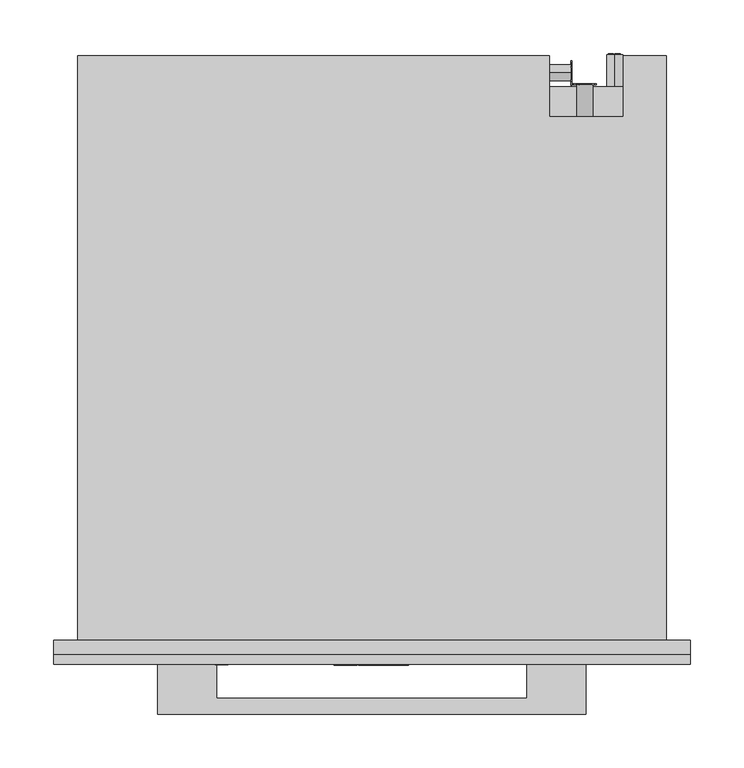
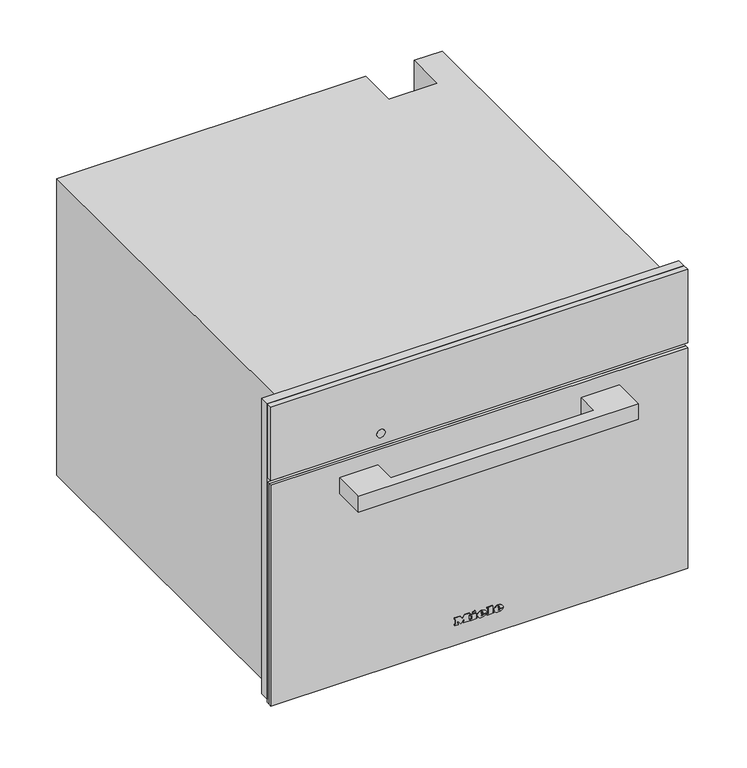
"""IFC4 building model written with IfcOpenShell, lengths in millimetres: proxy geometry, 12100420_D_DGC7645HCPro_OBSW : 23764528_D_12100420_DGC7645HCPro_OBSW."""

from ifc_helpers import new_model, si_unit, point, frame, frame_2d, origin, place, context, project, spatial, polyline, circle_curve, ellipse_curve, trimmed, segment, composite_curve, outline, extrude, faceted_brep, source, transform, mapped, element, save
from ifc_brep_helpers import plane_surface, cylinder_surface, revolved_surface, extruded_surface, advanced_brep


def specialty_equipment_17d98265(model_context):
    return source(origin(), model_context, "Body", "SolidModel", [
        extrude(outline(polyline([(455.0, 297.5), (455.0, -297.5), (9.0, -297.5), (9.0, 297.5), (455.0, 297.5)]), holes=[polyline([(344.0, -272.5), (344.0, 272.5), (27.0, 272.5), (27.0, -272.5), (344.0, -272.5)])]), frame((0.0, -13.0, 0.0), z_axis=(0.0, 1.0, 0.0), x_axis=(0.0, 0.0, 1.0)), (0.0, 0.0, 1.0), 13.0),
        extrude(outline(polyline([(383.0, 196.9217896), (383.0, 198.4267862), (393.0435673, 201.1942402), (393.0435673, 199.9014806), (384.4295103, 197.7797951), (393.0470645, 195.3087512), (393.0470645, 193.4373937), (384.4121052, 190.9191482), (393.0472266, 188.8443938), (393.0472266, 187.5376524), (383.0, 190.2769667), (383.0, 191.6257455), (391.8347238, 194.3884733), (383.0, 196.9217896)])), frame((0.0, 519.0, 0.0), z_axis=(0.0, 1.0, 0.0), x_axis=(0.0, 0.0, 1.0)), (0.0, 0.0, 1.0), 1.0),
        extrude(outline(polyline([(393.0468463, 209.521488), (393.0468463, 208.2566067), (388.129594, 208.2566067), (393.0474898, 203.1074328), (393.0474898, 201.3597489), (388.9313111, 205.6695027), (383.0, 201.1858157), (383.0, 202.7358731), (388.0700777, 206.5685235), (386.4282746, 208.2823622), (383.0, 208.2823622), (383.0, 209.521488), (393.0468463, 209.521488)])), frame((0.0, 519.0, 0.0), z_axis=(0.0, 1.0, 0.0), x_axis=(0.0, 0.0, 1.0)), (0.0, 0.0, 1.0), 1.0),
        extrude(outline(polyline([(518.3136153, 20.0), (522.323529, 30.045631), (523.3928394, 30.045631), (527.4027531, 20.0), (526.0759254, 20.0), (524.925681, 23.1392597), (520.7882348, 23.1392597), (519.640443, 20.0), (518.3136153, 20.0)]), holes=[polyline([(521.2493136, 24.3949636), (524.4670548, 24.3949636), (523.5620651, 26.864678), (522.8581842, 28.7899271), (522.2327848, 27.0805021), (521.2493136, 24.3949636)])]), frame((186.0, 0.0, 0.0), z_axis=(1.0, 0.0, 0.0), x_axis=(0.0, 1.0, 0.0)), (0.0, 0.0, 1.0), 1.0),
        extrude(outline(polyline([(530.5420128, 20.0), (527.8025182, 30.045631), (529.0974628, 30.045631), (530.6867131, 23.4433755), (531.1772224, 21.4053092), (531.7020674, 23.207931), (533.6935352, 30.045631), (535.5599232, 30.045631), (537.0069257, 25.0890343), (538.0835937, 21.4053092), (538.5593878, 23.3845144), (540.1633533, 30.045631), (541.4582979, 30.045631), (538.7163507, 20.0), (537.3748077, 20.0), (534.9664069, 27.7500474), (534.630408, 28.8316204), (534.2527159, 27.5293182), (532.0576866, 20.0), (530.5420128, 20.0)])), frame((186.0, 0.0, 0.0), z_axis=(1.0, 0.0, 0.0), x_axis=(0.0, 1.0, 0.0)), (0.0, 0.0, 1.0), 1.0),
        advanced_brep(
        [(227.0, 547.0, 255.5), (227.0, 547.0, 240.5), (221.4098301, 547.0, 243.0), (225.5, 547.0, 243.0), (225.5, 547.0, 253.0), (224.4955303, 547.0, 253.0), (224.4955303, 547.0, 244.0), (221.0315043, 547.0, 244.0), (221.0315043, 547.0, 243.4582978), (232.0, 547.0, 243.0), (232.0, 547.0, 253.0), (227.0, 547.0, 253.0), (227.0, 547.0, 252.0), (231.0, 547.0, 252.0), (231.0, 547.0, 248.5), (228.0, 547.0, 248.5), (228.0, 547.0, 247.5), (231.0, 547.0, 247.5), (231.0, 547.0, 244.0), (227.0, 547.0, 244.0), (227.0, 547.0, 243.0), (227.0, 517.0, 240.5), (227.0, 517.0, 255.5), (232.0, 548.0, 253.0), (232.0, 548.0, 243.0), (227.0, 548.0, 243.0), (227.0, 548.0, 244.0), (231.0, 548.0, 244.0), (231.0, 548.0, 247.5), (228.0, 548.0, 247.5), (228.0, 548.0, 248.5), (231.0, 548.0, 248.5), (231.0, 548.0, 252.0), (227.0, 548.0, 252.0), (227.0, 548.0, 253.0), (225.5, 548.0, 243.0), (221.0315043, 548.0, 243.0), (221.0315043, 548.0, 244.0), (224.4955303, 548.0, 244.0), (224.4955303, 548.0, 253.0), (225.5, 548.0, 253.0), (221.0315043, 547.0, 243.0)],
        [
            (0, 1, circle_curve(frame((227.0, 547.0, 248.0), z_axis=(0.0, 1.0, 0.0), x_axis=(0.0, 0.0, 1.0)), 7.5)),
            (1, 2, circle_curve(frame((227.0, 547.0, 248.0), z_axis=(0.0, 1.0, 0.0), x_axis=(0.0, 0.0, 1.0)), 7.5)),
            (2, 3),
            (3, 4),
            (4, 5),
            (5, 6),
            (6, 7),
            (7, 8),
            (8, 0, circle_curve(frame((227.0, 547.0, 248.0), z_axis=(0.0, 1.0, 0.0), x_axis=(0.0, 0.0, 1.0)), 7.5)),
            (9, 10),
            (10, 11),
            (11, 12),
            (12, 13),
            (13, 14),
            (14, 15),
            (15, 16),
            (16, 17),
            (17, 18),
            (18, 19),
            (19, 20),
            (20, 9),
            (21, 22, circle_curve(frame((227.0, 517.0, 248.0), z_axis=(0.0, -1.0, 0.0), x_axis=(0.0, 0.0, 1.0)), 7.5)),
            (22, 21, circle_curve(frame((227.0, 517.0, 248.0), z_axis=(0.0, -1.0, 0.0), x_axis=(0.0, 0.0, 1.0)), 7.5)),
            (0, 22),
            (21, 1),
            (8, 2, circle_curve(frame((227.0, 547.0, 248.0), z_axis=(0.0, -1.0, 0.0), x_axis=(0.0, 0.0, 1.0)), 7.5)),
            (23, 24),
            (24, 25),
            (25, 26),
            (26, 27),
            (27, 28),
            (28, 29),
            (29, 30),
            (30, 31),
            (31, 32),
            (32, 33),
            (33, 34),
            (34, 23),
            (35, 36),
            (36, 37),
            (37, 38),
            (38, 39),
            (39, 40),
            (40, 35),
            (8, 41),
            (41, 2),
            (23, 10),
            (9, 24),
            (20, 25),
            (19, 26),
            (18, 27),
            (17, 28),
            (16, 29),
            (15, 30),
            (14, 31),
            (13, 32),
            (12, 33),
            (11, 34),
            (35, 3),
            (41, 36),
            (7, 37),
            (6, 38),
            (5, 39),
            (4, 40),
        ],
        [
            plane_surface(frame((227.0, 547.0, 255.5), z_axis=(0.0, 1.0, 0.0), x_axis=(1.0, 0.0, 0.0))),
            plane_surface(frame((227.0, 517.0, 255.5), z_axis=(0.0, -1.0, 0.0), x_axis=(-1.0, 0.0, 0.0))),
            cylinder_surface(frame((227.0, 547.0, 248.0), z_axis=(0.0, -1.0, 0.0), x_axis=(0.0, 0.0, 1.0)), 7.5),
            plane_surface(frame((232.0, 548.0, 253.0), z_axis=(0.0, 1.0, 0.0), x_axis=(0.0, 0.0, -1.0))),
            plane_surface(frame((232.0, 547.0, 253.0), z_axis=(0.0, -1.0, 0.0), x_axis=(0.0, 0.0, 1.0))),
            plane_surface(frame((232.0, 548.0, 253.0), z_axis=(1.0, 0.0, 0.0), x_axis=(0.0, -1.0, 0.0))),
            plane_surface(frame((232.0, 548.0, 243.0), z_axis=(0.0, 0.0, -1.0), x_axis=(0.0, -1.0, 0.0))),
            plane_surface(frame((227.0, 548.0, 243.0), z_axis=(-1.0, 0.0, 0.0), x_axis=(0.0, -1.0, 0.0))),
            plane_surface(frame((227.0, 548.0, 244.0), z_axis=(0.0, 0.0, 1.0), x_axis=(0.0, -1.0, 0.0))),
            plane_surface(frame((231.0, 548.0, 244.0), z_axis=(-1.0, 0.0, 0.0), x_axis=(0.0, -1.0, 0.0))),
            plane_surface(frame((231.0, 548.0, 247.5), z_axis=(0.0, 0.0, -1.0), x_axis=(0.0, -1.0, 0.0))),
            plane_surface(frame((228.0, 548.0, 247.5), z_axis=(-1.0, 0.0, 0.0), x_axis=(0.0, -1.0, 0.0))),
            plane_surface(frame((228.0, 548.0, 248.5), z_axis=(0.0, 0.0, 1.0), x_axis=(0.0, -1.0, 0.0))),
            plane_surface(frame((231.0, 548.0, 248.5), z_axis=(-1.0, 0.0, 0.0), x_axis=(0.0, -1.0, 0.0))),
            plane_surface(frame((231.0, 548.0, 252.0), z_axis=(0.0, 0.0, -1.0), x_axis=(0.0, -1.0, 0.0))),
            plane_surface(frame((227.0, 548.0, 252.0), z_axis=(-1.0, 0.0, 0.0), x_axis=(0.0, -1.0, 0.0))),
            plane_surface(frame((227.0, 548.0, 253.0), z_axis=(0.0, 0.0, 1.0), x_axis=(0.0, -1.0, 0.0))),
            plane_surface(frame((225.5, 548.0, 243.0), z_axis=(0.0, 0.0, -1.0), x_axis=(0.0, -1.0, 0.0))),
            plane_surface(frame((221.0315043, 548.0, 243.0), z_axis=(-1.0, 0.0, 0.0), x_axis=(0.0, -1.0, 0.0))),
            plane_surface(frame((221.0315043, 548.0, 244.0), z_axis=(0.0, 0.0, 1.0), x_axis=(0.0, -1.0, 0.0))),
            plane_surface(frame((224.4955303, 548.0, 244.0), z_axis=(-1.0, 0.0, 0.0), x_axis=(0.0, -1.0, 0.0))),
            plane_surface(frame((224.4955303, 548.0, 253.0), z_axis=(0.0, 0.0, 1.0), x_axis=(0.0, -1.0, 0.0))),
            plane_surface(frame((225.5, 548.0, 253.0), z_axis=(1.0, 0.0, 0.0), x_axis=(0.0, -1.0, 0.0))),
        ],
        [
            (0, [[1, 2, 3, 4, 5, 6, 7, 8, 9], [10, 11, 12, 13, 14, 15, 16, 17, 18, 19, 20, 21]]),
            (1, [[22, 23]]),
            (2, [[-1, 24, -22, 25]]),
            (2, [[-23, -24, -9, 26, -2, -25]]),
            (3, [[27, 28, 29, 30, 31, 32, 33, 34, 35, 36, 37, 38]]),
            (3, [[39, 40, 41, 42, 43, 44]]),
            (4, [[45, 46, -26]]),
            (5, [[-27, 47, -10, 48]]),
            (6, [[-28, -48, -21, 49]]),
            (7, [[-29, -49, -20, 50]]),
            (8, [[-30, -50, -19, 51]]),
            (9, [[-31, -51, -18, 52]]),
            (10, [[-32, -52, -17, 53]]),
            (11, [[-33, -53, -16, 54]]),
            (12, [[-34, -54, -15, 55]]),
            (13, [[-35, -55, -14, 56]]),
            (14, [[-36, -56, -13, 57]]),
            (15, [[-37, -57, -12, 58]]),
            (16, [[-38, -58, -11, -47]]),
            (17, [[-39, 59, -3, -46, 60]]),
            (18, [[-40, -60, -45, -8, 61]]),
            (19, [[-41, -61, -7, 62]]),
            (20, [[-42, -62, -6, 63]]),
            (21, [[-43, -63, -5, 64]]),
            (22, [[-44, -64, -4, -59]]),
        ],
    ),
        extrude(outline(composite_curve([segment(trimmed(circle_curve(frame_2d((388.0, 199.0)), 7.5), [point((388.0, 206.5))], [point((388.0, 191.5))], False, "CARTESIAN"), True, "CONTINUOUS"), segment(trimmed(circle_curve(frame_2d((388.0, 199.0)), 7.5), [point((388.0, 191.5))], [point((388.0, 206.5))], False, "CARTESIAN"), True, "CONTINUOUS")], self_intersect=False)), frame((0.0, 489.0, 0.0), z_axis=(0.0, 1.0, 0.0), x_axis=(0.0, 0.0, 1.0)), (0.0, 0.0, 1.0), 30.0),
        extrude(outline(composite_curve([segment(trimmed(circle_curve(frame_2d((530.0, 25.0)), 7.5), [point((530.0, 17.5))], [point((530.0, 32.5))], False, "CARTESIAN"), True, "CONTINUOUS"), segment(trimmed(circle_curve(frame_2d((530.0, 25.0)), 7.5), [point((530.0, 32.5))], [point((530.0, 17.5))], False, "CARTESIAN"), True, "CONTINUOUS")], self_intersect=False)), frame((166.0, 0.0, 0.0), z_axis=(1.0, 0.0, 0.0), x_axis=(0.0, 1.0, 0.0)), (0.0, 0.0, 1.0), 20.0),
        faceted_brep([(-275.0, 546.0, 0.0), (-275.0, 546.0, 448.0), (166.0, 546.0, 448.0), (166.0, 546.0, 0.0), (235.0, 546.0, 448.0), (275.0, 546.0, 448.0), (275.0, 546.0, 338.0), (235.0, 546.0, 338.0), (275.0, 0.0, 448.0), (-275.0, 0.0, 448.0), (-275.0, 0.0, 0.0), (275.0, 0.0, 0.0), (-272.5, 0.0, 344.0), (272.5, 0.0, 344.0), (272.5, 0.0, 27.0), (-272.5, 0.0, 27.0), (235.0, 489.0, 448.0), (166.0, 489.0, 448.0), (166.0, 517.0, 0.0), (275.0, 517.0, 0.0), (275.0, 517.0, 338.0), (272.5, 17.0, 344.0), (-272.5, 17.0, 344.0), (-272.5, 17.0, 27.0), (272.5, 17.0, 27.0), (231.0, 17.0, 307.0), (231.0, 17.0, 65.0), (-231.0, 17.0, 65.0), (-231.0, 17.0, 307.0), (231.0, 411.0, 307.0), (-231.0, 411.0, 307.0), (-231.0, 411.0, 65.0), (231.0, 411.0, 65.0), (235.0, 489.0, 337.0), (166.0, 489.0, 337.0), (166.0, 517.0, 337.0), (235.0, 517.0, 337.0), (235.0, 517.0, 338.0)], [[[0, 1, 2, 3]], [[4, 5, 6, 7]], [[8, 9, 10, 11], [12, 13, 14, 15]], [[9, 8, 5, 4, 16, 17, 2, 1]], [[1, 0, 10, 9]], [[11, 10, 0, 3, 18, 19]], [[8, 11, 19, 20, 6, 5]], [[21, 22, 23, 24], [25, 26, 27, 28]], [[22, 21, 13, 12]], [[23, 22, 12, 15]], [[24, 23, 15, 14]], [[21, 24, 14, 13]], [[29, 30, 31, 32]], [[29, 32, 26, 25]], [[32, 31, 27, 26]], [[31, 30, 28, 27]], [[30, 29, 25, 28]], [[16, 33, 34, 17]], [[17, 34, 35, 18, 3, 2]], [[34, 33, 36, 35]], [[33, 16, 4, 7, 37, 36]], [[37, 20, 19, 18, 35, 36]], [[20, 37, 7, 6]]]),
        advanced_brep(
        [(26.2998, -23.0, 36.7018), (26.2998, -23.0, 37.8532), (33.9264, -23.0, 37.8532), (20.6568, -23.0, 37.8532), (23.7918, -23.0, 34.0), (33.7326, -23.0, 36.7018), (30.2898, -23.0, 36.7018), (27.5766, -23.0, 35.425), (26.2998, -23.0, 39.3124), (26.2998, -23.0, 40.555), (28.2492, -23.0, 40.555), (28.2492, -23.0, 39.3124), (26.2998, -22.0, 36.7018), (27.5766, -22.0, 35.425), (30.2898, -22.0, 36.7018), (33.7326, -22.0, 36.7018), (23.7918, -22.0, 34.0), (20.6568, -22.0, 37.8532), (33.9264, -22.0, 37.8532), (26.2998, -22.0, 37.8532), (26.2998, -22.0, 39.3124), (28.2492, -22.0, 39.3124), (28.2492, -22.0, 40.555), (26.2998, -22.0, 40.555)],
        [
            (0, 1),
            (1, 2),
            (2, 3, ellipse_curve(frame((27.2916, -23.0, 37.8532), z_axis=(0.0, -1.0, 0.0), x_axis=(-1.0, 0.0, 0.0)), 6.6348, 5.4834)),
            (3, 4, circle_curve(frame((25.0686622, -23.0, 38.2408), z_axis=(0.0, -1.0, 0.0), x_axis=(0.0, 0.0, -1.0)), 4.4288556)),
            (4, 5, circle_curve(frame((27.1587808, -23.0, 41.2504), z_axis=(0.0, -1.0, 0.0), x_axis=(0.0, 0.0, -1.0)), 7.9940516)),
            (5, 6),
            (6, 7, circle_curve(frame((28.1338588, -23.0, 37.762), z_axis=(0.0, 1.0, 0.0), x_axis=(0.0, 0.0, -1.0)), 2.4025208)),
            (7, 0, circle_curve(frame((27.5766, -23.0, 36.7018), z_axis=(0.0, 1.0, 0.0), x_axis=(0.0, 0.0, -1.0)), 1.2768)),
            (8, 9),
            (9, 10, circle_curve(frame((27.2745, -23.0, 40.555), z_axis=(0.0, 1.0, 0.0), x_axis=(0.0, 0.0, -1.0)), 0.9747)),
            (10, 11),
            (11, 8),
            (12, 13, circle_curve(frame((27.5766, -22.0, 36.7018), z_axis=(0.0, -1.0, 0.0), x_axis=(0.0, 0.0, -1.0)), 1.2768)),
            (13, 14, circle_curve(frame((28.1338588, -22.0, 37.762), z_axis=(0.0, -1.0, 0.0), x_axis=(0.0, 0.0, -1.0)), 2.4025208)),
            (14, 15),
            (15, 16, circle_curve(frame((27.1587808, -22.0, 41.2504), z_axis=(0.0, 1.0, 0.0), x_axis=(0.0, 0.0, -1.0)), 7.9940516)),
            (16, 17, circle_curve(frame((25.0686622, -22.0, 38.2408), z_axis=(0.0, 1.0, 0.0), x_axis=(0.0, 0.0, -1.0)), 4.4288556)),
            (17, 18, ellipse_curve(frame((27.2916, -22.0, 37.8532), z_axis=(0.0, 1.0, 0.0), x_axis=(-1.0, 0.0, 0.0)), 6.6348, 5.4834)),
            (18, 19),
            (19, 12),
            (20, 21),
            (21, 22),
            (22, 23, circle_curve(frame((27.2745, -22.0, 40.555), z_axis=(0.0, -1.0, 0.0), x_axis=(0.0, 0.0, -1.0)), 0.9747)),
            (23, 20),
            (0, 12),
            (19, 1),
            (18, 2),
            (5, 15),
            (14, 6),
            (17, 3),
            (13, 7),
            (16, 4),
            (8, 20),
            (23, 9),
            (22, 10),
            (21, 11),
        ],
        [
            plane_surface(frame((26.2998, -23.0, 37.8532), z_axis=(0.0, -1.0, 0.0), x_axis=(0.0, 0.0, 1.0))),
            plane_surface(frame((26.2998, -22.0, 37.8532), z_axis=(0.0, 1.0, 0.0), x_axis=(0.0, 0.0, -1.0))),
            plane_surface(frame((26.2998, -23.0, 36.7018), z_axis=(1.0, 0.0, 0.0), x_axis=(0.0, 1.0, 0.0))),
            plane_surface(frame((26.2998, -23.0, 37.8532), z_axis=(0.0, 0.0, -1.0), x_axis=(0.0, 1.0, 0.0))),
            plane_surface(frame((33.7326, -23.0, 36.7018), z_axis=(0.0, 0.0, 1.0), x_axis=(0.0, 1.0, 0.0))),
            extruded_surface(trimmed(ellipse_curve(frame((27.2916, -21.0, 37.8532), z_axis=(0.0, -1.0, 0.0), x_axis=(-1.0, 0.0, 0.0)), 6.6348, 5.4834), [point((33.9264, -21.0, 37.8532))], [point((20.6568, -21.0, 37.8532))], True, "CARTESIAN"), (0.0, -1.0, 0.0), 1.0),
            revolved_surface(polyline([(28.1338588, -22.0, 35.3594792), (28.1338588, -23.0, 35.3594792)]), (28.1338588, -22.0, 37.762), (0.0, 1.0, 0.0)),
            revolved_surface(polyline([(27.5766, -22.0, 35.425), (27.5766, -23.0, 35.425)]), (27.5766, -22.0, 36.7018), (0.0, 1.0, 0.0)),
            cylinder_surface(frame((25.0686622, -22.0, 38.2408), z_axis=(0.0, -1.0, 0.0), x_axis=(0.0, 0.0, -1.0)), 4.4288556),
            cylinder_surface(frame((27.1587808, -22.0, 41.2504), z_axis=(0.0, -1.0, 0.0), x_axis=(0.0, 0.0, -1.0)), 7.9940516),
            plane_surface(frame((26.2998, -23.0, 39.3124), z_axis=(1.0, 0.0, 0.0), x_axis=(0.0, 1.0, 0.0))),
            revolved_surface(polyline([(27.2745, -22.0, 39.5803), (27.2745, -23.0, 39.5803)]), (27.2745, -22.0, 40.555), (0.0, 1.0, 0.0)),
            plane_surface(frame((28.2492, -23.0, 40.555), z_axis=(-1.0, 0.0, 0.0), x_axis=(0.0, 1.0, 0.0))),
            plane_surface(frame((28.2492, -23.0, 39.3124), z_axis=(0.0, 0.0, 1.0), x_axis=(0.0, 1.0, 0.0))),
        ],
        [
            (0, [[1, 2, 3, 4, 5, 6, 7, 8], [9, 10, 11, 12]]),
            (1, [[13, 14, 15, 16, 17, 18, 19, 20], [21, 22, 23, 24]]),
            (2, [[-1, 25, -20, 26]]),
            (3, [[-2, -26, -19, 27]]),
            (4, [[-6, 28, -15, 29]]),
            (5, [[-3, -27, -18, 30]]),
            (6, [[-7, -29, -14, 31]]),
            (7, [[-8, -31, -13, -25]]),
            (8, [[-4, -30, -17, 32]]),
            (9, [[-5, -32, -16, -28]]),
            (10, [[-9, 33, -24, 34]]),
            (11, [[-10, -34, -23, 35]]),
            (12, [[-11, -35, -22, 36]]),
            (13, [[-12, -36, -21, -33]]),
        ],
    ),
        advanced_brep(
        [(2.508, -23.0, 36.7018), (2.508, -23.0, 37.8532), (10.1346, -23.0, 37.8532), (-3.135, -23.0, 37.8532), (0.0, -23.0, 34.0), (9.9408, -23.0, 36.7018), (6.498, -23.0, 36.7018), (3.7848, -23.0, 35.425), (2.508, -23.0, 39.3124), (2.508, -23.0, 40.555), (4.4574, -23.0, 40.555), (4.4574, -23.0, 39.3124), (2.508, -22.0, 36.7018), (3.7848, -22.0, 35.425), (6.498, -22.0, 36.7018), (9.9408, -22.0, 36.7018), (0.0, -22.0, 34.0), (-3.135, -22.0, 37.8532), (10.1346, -22.0, 37.8532), (2.508, -22.0, 37.8532), (2.508, -22.0, 39.3124), (4.4574, -22.0, 39.3124), (4.4574, -22.0, 40.555), (2.508, -22.0, 40.555)],
        [
            (0, 1),
            (1, 2),
            (2, 3, ellipse_curve(frame((3.4998, -23.0, 37.8532), z_axis=(0.0, -1.0, 0.0), x_axis=(-1.0, 0.0, 0.0)), 6.6348, 5.4834)),
            (3, 4, circle_curve(frame((1.2768622, -23.0, 38.2408), z_axis=(0.0, -1.0, 0.0), x_axis=(0.0, 0.0, -1.0)), 4.4288556)),
            (4, 5, circle_curve(frame((3.3669808, -23.0, 41.2504), z_axis=(0.0, -1.0, 0.0), x_axis=(0.0, 0.0, -1.0)), 7.9940516)),
            (5, 6),
            (6, 7, circle_curve(frame((4.3420588, -23.0, 37.762), z_axis=(0.0, 1.0, 0.0), x_axis=(0.0, 0.0, -1.0)), 2.4025208)),
            (7, 0, circle_curve(frame((3.7848, -23.0, 36.7018), z_axis=(0.0, 1.0, 0.0), x_axis=(0.0, 0.0, -1.0)), 1.2768)),
            (8, 9),
            (9, 10, circle_curve(frame((3.4827, -23.0, 40.555), z_axis=(0.0, 1.0, 0.0), x_axis=(0.0, 0.0, -1.0)), 0.9747)),
            (10, 11),
            (11, 8),
            (12, 13, circle_curve(frame((3.7848, -22.0, 36.7018), z_axis=(0.0, -1.0, 0.0), x_axis=(0.0, 0.0, -1.0)), 1.2768)),
            (13, 14, circle_curve(frame((4.3420588, -22.0, 37.762), z_axis=(0.0, -1.0, 0.0), x_axis=(0.0, 0.0, -1.0)), 2.4025208)),
            (14, 15),
            (15, 16, circle_curve(frame((3.3669808, -22.0, 41.2504), z_axis=(0.0, 1.0, 0.0), x_axis=(0.0, 0.0, -1.0)), 7.9940516)),
            (16, 17, circle_curve(frame((1.2768622, -22.0, 38.2408), z_axis=(0.0, 1.0, 0.0), x_axis=(0.0, 0.0, -1.0)), 4.4288556)),
            (17, 18, ellipse_curve(frame((3.4998, -22.0, 37.8532), z_axis=(0.0, 1.0, 0.0), x_axis=(-1.0, 0.0, 0.0)), 6.6348, 5.4834)),
            (18, 19),
            (19, 12),
            (20, 21),
            (21, 22),
            (22, 23, circle_curve(frame((3.4827, -22.0, 40.555), z_axis=(0.0, -1.0, 0.0), x_axis=(0.0, 0.0, -1.0)), 0.9747)),
            (23, 20),
            (0, 12),
            (19, 1),
            (18, 2),
            (5, 15),
            (14, 6),
            (17, 3),
            (13, 7),
            (16, 4),
            (8, 20),
            (23, 9),
            (22, 10),
            (21, 11),
        ],
        [
            plane_surface(frame((2.508, -23.0, 37.8532), z_axis=(0.0, -1.0, 0.0), x_axis=(0.0, 0.0, 1.0))),
            plane_surface(frame((2.508, -22.0, 37.8532), z_axis=(0.0, 1.0, 0.0), x_axis=(0.0, 0.0, -1.0))),
            plane_surface(frame((2.508, -23.0, 36.7018), z_axis=(1.0, 0.0, 0.0), x_axis=(0.0, 1.0, 0.0))),
            plane_surface(frame((2.508, -23.0, 37.8532), z_axis=(0.0, 0.0, -1.0), x_axis=(0.0, 1.0, 0.0))),
            plane_surface(frame((9.9408, -23.0, 36.7018), z_axis=(0.0, 0.0, 1.0), x_axis=(0.0, 1.0, 0.0))),
            extruded_surface(trimmed(ellipse_curve(frame((3.4998, -21.0, 37.8532), z_axis=(0.0, -1.0, 0.0), x_axis=(-1.0, 0.0, 0.0)), 6.6348, 5.4834), [point((10.1346, -21.0, 37.8532))], [point((-3.135, -21.0, 37.8532))], True, "CARTESIAN"), (0.0, -1.0, 0.0), 1.0),
            revolved_surface(polyline([(4.3420588, -22.0, 35.3594792), (4.3420588, -23.0, 35.3594792)]), (4.3420588, -22.0, 37.762), (0.0, 1.0, 0.0)),
            revolved_surface(polyline([(3.7848, -22.0, 35.425), (3.7848, -23.0, 35.425)]), (3.7848, -22.0, 36.7018), (0.0, 1.0, 0.0)),
            cylinder_surface(frame((1.2768622, -22.0, 38.2408), z_axis=(0.0, -1.0, 0.0), x_axis=(0.0, 0.0, -1.0)), 4.4288556),
            cylinder_surface(frame((3.3669808, -22.0, 41.2504), z_axis=(0.0, -1.0, 0.0), x_axis=(0.0, 0.0, -1.0)), 7.9940516),
            plane_surface(frame((2.508, -23.0, 39.3124), z_axis=(1.0, 0.0, 0.0), x_axis=(0.0, 1.0, 0.0))),
            revolved_surface(polyline([(3.4827, -22.0, 39.5803), (3.4827, -23.0, 39.5803)]), (3.4827, -22.0, 40.555), (0.0, 1.0, 0.0)),
            plane_surface(frame((4.4574, -23.0, 40.555), z_axis=(-1.0, 0.0, 0.0), x_axis=(0.0, 1.0, 0.0))),
            plane_surface(frame((4.4574, -23.0, 39.3124), z_axis=(0.0, 0.0, 1.0), x_axis=(0.0, 1.0, 0.0))),
        ],
        [
            (0, [[1, 2, 3, 4, 5, 6, 7, 8], [9, 10, 11, 12]]),
            (1, [[13, 14, 15, 16, 17, 18, 19, 20], [21, 22, 23, 24]]),
            (2, [[-1, 25, -20, 26]]),
            (3, [[-2, -26, -19, 27]]),
            (4, [[-6, 28, -15, 29]]),
            (5, [[-3, -27, -18, 30]]),
            (6, [[-7, -29, -14, 31]]),
            (7, [[-8, -31, -13, -25]]),
            (8, [[-4, -30, -17, 32]]),
            (9, [[-5, -32, -16, -28]]),
            (10, [[-9, 33, -24, 34]]),
            (11, [[-10, -34, -23, 35]]),
            (12, [[-11, -35, -22, 36]]),
            (13, [[-12, -36, -21, -33]]),
        ],
    ),
        extrude(outline(polyline([(44.7274, -9.9522), (42.8806, -9.0858), (44.6818, -5.2212), (46.5286, -6.0762), (44.7274, -9.9522)])), frame((0.0, -23.0, 0.0), z_axis=(0.0, 1.0, 0.0), x_axis=(0.0, 0.0, 1.0)), (0.0, 0.0, 1.0), 1.0),
        extrude(outline(polyline([(42.6298, -12.768), (40.5892, -12.768), (40.5892, -11.4114), (35.9152, -11.4114), (35.9152, -12.768), (34.0, -12.768), (34.0, -3.7734), (35.9152, -3.7734), (35.9152, -5.0958), (42.6298, -5.0958), (42.6298, -12.768)])), frame((0.0, -23.0, 0.0), z_axis=(0.0, 1.0, 0.0), x_axis=(0.0, 0.0, 1.0)), (0.0, 0.0, 1.0), 1.0),
        extrude(outline(polyline([(43.5418, 10.773), (43.5418, 12.141), (35.9152, 12.141), (35.9152, 10.773), (34.0, 10.773), (34.0, 20.0184), (35.9152, 20.0184), (35.9152, 18.6162), (45.4, 18.6162), (45.4, 10.773), (43.5418, 10.773)])), frame((0.0, -23.0, 0.0), z_axis=(0.0, 1.0, 0.0), x_axis=(0.0, 0.0, 1.0)), (0.0, 0.0, 1.0), 1.0),
        extrude(outline(polyline([(43.5418, -35.4882), (43.5418, -34.1088), (35.9152, -34.1088), (35.9152, -35.4882), (34.0, -35.4882), (34.0, -30.4722), (35.9152, -30.4722), (35.9152, -31.8402), (40.7429247, -31.8402), (34.0, -26.7444), (40.9402223, -21.6258), (35.9152, -21.6258), (35.9152, -23.028), (34.0, -23.028), (34.0, -13.9308), (35.9152, -13.9308), (35.9152, -15.3786), (43.5418, -15.3786), (43.5418, -13.9308), (45.4, -13.9308), (45.4, -20.8734), (41.125, -24.2022), (45.4, -27.5424), (45.4, -35.4882), (43.5418, -35.4882)])), frame((0.0, -23.0, 0.0), z_axis=(0.0, 1.0, 0.0), x_axis=(0.0, 0.0, 1.0)), (0.0, 0.0, 1.0), 1.0),
        extrude(outline(polyline([(297.5, -22.0), (-297.5, -22.0), (-297.5, -13.0), (297.5, -13.0), (297.5, -22.0)])), frame((0.0, 0.0, 344.0), z_axis=(0.0, 0.0, 1.0), x_axis=(1.0, 0.0, 0.0)), (0.0, 0.0, 1.0), 111.0),
        extrude(outline(composite_curve([segment(trimmed(circle_curve(frame_2d((361.0, -140.5745637)), 6.0), [point((361.0, -146.5745637))], [point((361.0, -134.5745637))], False, "CARTESIAN"), True, "CONTINUOUS"), segment(trimmed(circle_curve(frame_2d((361.0, -140.5745637)), 6.0), [point((361.0, -134.5745637))], [point((361.0, -146.5745637))], False, "CARTESIAN"), True, "CONTINUOUS")], self_intersect=False)), frame((0.0, -22.5, 0.0), z_axis=(0.0, 1.0, 0.0), x_axis=(0.0, 0.0, 1.0)), (0.0, 0.0, 1.0), 1.0),
        extrude(outline(polyline([(-297.5, -18.0), (297.5, -18.0), (297.5, -22.0), (-297.5, -22.0), (-297.5, -18.0)])), frame((0.0, 0.0, 4.0), z_axis=(0.0, 0.0, 1.0), x_axis=(1.0, 0.0, 0.0)), (0.0, 0.0, 1.0), 333.0),
        extrude(outline(polyline([(297.5, -18.0), (-297.5, -18.0), (-297.5, -13.0), (297.5, -13.0), (297.5, -18.0)])), frame((0.0, 0.0, 4.0), z_axis=(0.0, 0.0, 1.0), x_axis=(1.0, 0.0, 0.0)), (0.0, 0.0, 1.0), 333.0),
        extrude(outline(polyline([(-200.0, -69.0), (-200.0, -22.0), (-145.0, -22.0), (-145.0, -54.0), (145.0, -54.0), (145.0, -22.0), (200.0, -22.0), (200.0, -69.0), (-200.0, -69.0)])), frame((0.0, 0.0, 291.0), z_axis=(0.0, 0.0, 1.0), x_axis=(1.0, 0.0, 0.0)), (0.0, 0.0, 1.0), 24.0),
    ])


if __name__ == "__main__":
    model = new_model("IFC4")
    model_context = context("Model", 3, world=origin())
    ifc_project = project(units=[si_unit("LENGTHUNIT", "METRE", prefix="MILLI")], contexts=[model_context])
    site = spatial("IfcSite", under=ifc_project)
    building = spatial("IfcBuilding", under=site)
    placement = place(None, origin())
    specialty_equipment_shape = specialty_equipment_17d98265(model_context)
    element("IfcBuildingElementProxy", 1, Name="12100420_D_DGC7645HCPro_OBSW : 23764528_D_12100420_DGC7645HCPro_OBSW", ObjectType="12100420_D_DGC7645HCPro_OBSW : 23764528_D_12100420_DGC7645HCPro_OBSW", at=placement, inside=building, context=model_context, shape_type="MappedRepresentation", body=[
        mapped(specialty_equipment_shape, transform((0.0, 0.0, 0.0), x_axis=(1.0, 0.0, 0.0), y_axis=(0.0, 1.0, 0.0), z_axis=(0.0, 0.0, 1.0))),
    ])
    save(model, "model.ifc")
